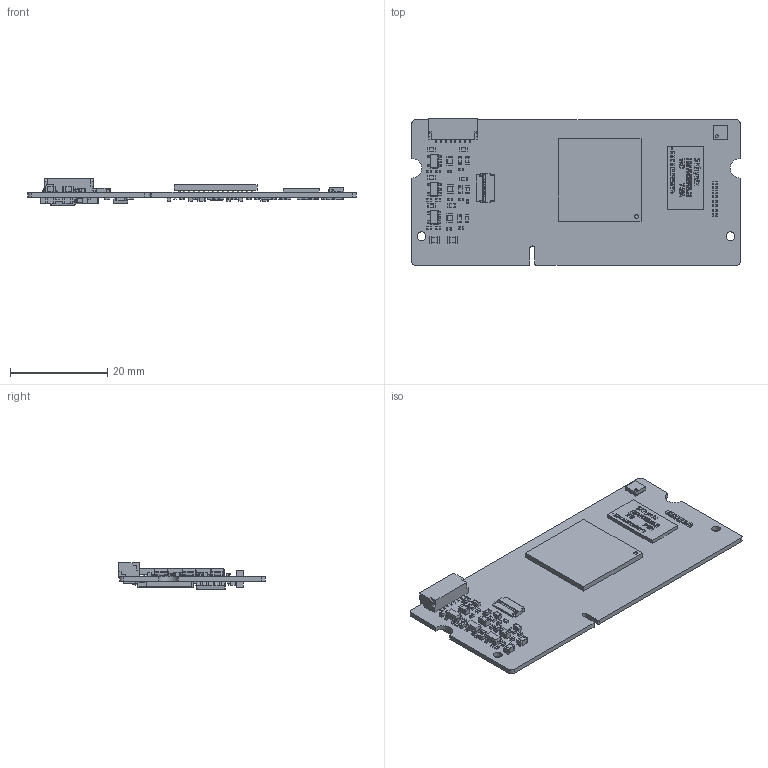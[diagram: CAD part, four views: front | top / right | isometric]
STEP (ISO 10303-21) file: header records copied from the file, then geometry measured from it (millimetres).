
FILE_DESCRIPTION(('KiCad electronic assembly'),'2;1');
FILE_NAME('Tang_Primer_20K_3690.step','2023-11-22T16:42:31',('Pcbnew'),( 'Kicad'),'Open CASCADE STEP processor 7.6','KiCad to STEP converter' ,'Unknown');
FILE_SCHEMA(('AUTOMOTIVE_DESIGN { 1 0 10303 214 1 1 1 1 }'));
Length unit declared in the file: millimetre
Products named in the file (36): Tang_Primer_20K_3690 1; C_0402_1005Metric; SOLID; R_0603_1608Metric; R_0402_1005Metric; C_0603_1608Metric; L_0805_2012Metric; FPC8-01; C_0805_2012Metric; SOT-23-5; BGA-256_17.0x17.0mm_Layout16x16_P1.0mm_Ball0.5mm_Pad0.4mm_NSMD; SM08B-SRSS-TB_white_plastic; DDR3-FBGA 96 7_5x13; VSON-10-1EP_3x3mm_P0.5mm_EP1.65x2.4mm; SO-8_5.3x6.2mm_P1.27mm; R_Array_Concave_4x0402; SOT-23; Crystal_SMD_3225-4Pin_3.2x2.5mm; microSD_HC_Molex_104031-0811; COMPOUND; Tang_Primer_20K_3690 PCB
Assembly tree (218 placements, depth 3):
  Tang_Primer_20K_3690 1
    C_0402_1005Metric  x78
      SOLID
    R_0603_1608Metric  x9
      SOLID
    R_0402_1005Metric  x75
      SOLID
    C_0603_1608Metric  x15
      SOLID
    L_0805_2012Metric  x3
      SOLID
    FPC8-01
      SOLID
    C_0805_2012Metric  x4
      SOLID
    SOT-23-5  x3
      SOLID
    BGA-256_17.0x17.0mm_Layout16x16_P1.0mm_Ball0.5mm_Pad0.4mm_NSMD
      SOLID
    SM08B-SRSS-TB_white_plastic
      SOLID
    DDR3-FBGA 96 7_5x13
      SOLID
    VSON-10-1EP_3x3mm_P0.5mm_EP1.65x2.4mm
      SOLID
    SO-8_5.3x6.2mm_P1.27mm
      SOLID
    R_Array_Concave_4x0402  x3
      SOLID
    SOT-23  x2
      SOLID
    Crystal_SMD_3225-4Pin_3.2x2.5mm
      SOLID
    microSD_HC_Molex_104031-0811
      COMPOUND
    Tang_Primer_20K_3690 PCB
Bounding box: 67.6 x 30.23 x 5.46 mm (x, y, z)
Volume: 2799 mm3; surface area: 6782.1 mm2
Topology: 201 solids, 201 shells, 7835 faces, 21050 edges, 13663 vertices
Faces by surface type: plane 4859, cylinder 2354, bspline 562, sphere 60
Full cylindrical faces by diameter (mm): 0.4 x1, 0.6 x1, 0.8 x1, 1.8 x2
Entity records: 232524 total; most frequent: CARTESIAN_POINT 95908, DIRECTION 20763, LINE 13590, VECTOR 13590, ORIENTED_EDGE 12952, PCURVE 12952, DEFINITIONAL_REPRESENTATION 12952, EDGE_CURVE 6476
